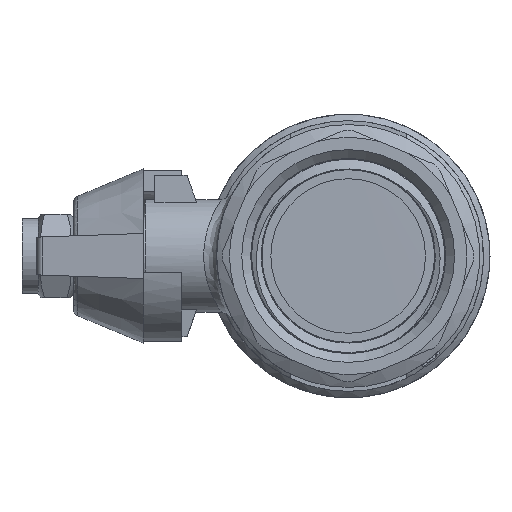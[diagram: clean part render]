
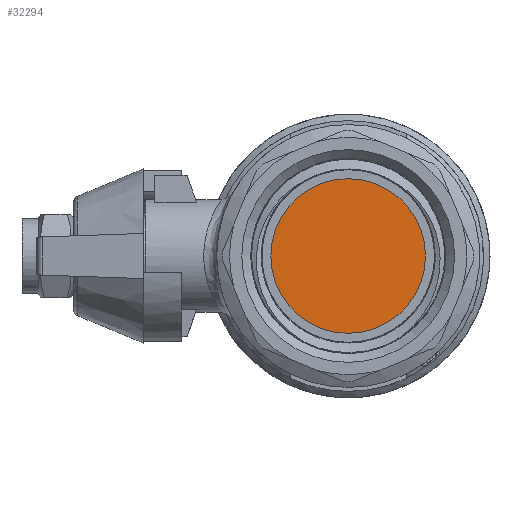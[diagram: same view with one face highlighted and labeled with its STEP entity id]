
A CAD part, left-side view. The second image highlights one B-rep face of the part: STEP entity #32294.
In plain terms, the highlighted cylindrical face has radius 19.5 mm (diameter 39 mm), a full revolution.
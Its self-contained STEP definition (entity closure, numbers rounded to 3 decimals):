
#3546=B_SPLINE_CURVE_WITH_KNOTS('',3,(#98062,#98063,#98064,#98065,#98066,
#98067,#98068,#98069,#98070,#98071,#98072,#98073,#98074,#98075,#98076,#98077,
#98078),.UNSPECIFIED.,.F.,.F.,(4,1,1,1,1,1,1,1,1,1,1,1,1,1,4),(12.566,
12.752,13.241,13.731,14.22,14.709,
15.198,15.687,16.176,16.665,17.154,
17.643,18.132,18.621,18.85),
 .UNSPECIFIED.);
#3866=CYLINDRICAL_SURFACE('',#34278,19.5);
#6483=FACE_OUTER_BOUND('',#8338,.T.);
#8338=EDGE_LOOP('',(#30386,#30387,#30388));
#9944=LINE('',#97824,#11539);
#9948=LINE('',#98061,#11543);
#11539=VECTOR('',#39492,19.5);
#11543=VECTOR('',#39506,19.5);
#15465=VERTEX_POINT('',#97822);
#15466=VERTEX_POINT('',#97823);
#15474=VERTEX_POINT('',#98060);
#20442=EDGE_CURVE('',#15465,#15466,#9944,.T.);
#20454=EDGE_CURVE('',#15474,#15466,#9948,.T.);
#20455=EDGE_CURVE('',#15474,#15465,#3546,.T.);
#30386=ORIENTED_EDGE('',*,*,#20442,.T.);
#30387=ORIENTED_EDGE('',*,*,#20454,.F.);
#30388=ORIENTED_EDGE('',*,*,#20455,.T.);
#32294=ADVANCED_FACE('',(#6483),#3866,.T.);
#34278=AXIS2_PLACEMENT_3D('',#98059,#39504,#39505);
#39492=DIRECTION('',(1.,0.,0.));
#39504=DIRECTION('center_axis',(1.,0.,0.));
#39505=DIRECTION('ref_axis',(0.,0.,1.));
#39506=DIRECTION('',(-1.,0.,0.));
#97822=CARTESIAN_POINT('',(-3.497,0.,-19.5));
#97823=CARTESIAN_POINT('',(-2.509,0.,-19.5));
#97824=CARTESIAN_POINT('',(-3.5,0.,-19.5));
#98059=CARTESIAN_POINT('Origin',(-3.5,0.,0.));
#98060=CARTESIAN_POINT('',(-2.496,0.,-19.5));
#98061=CARTESIAN_POINT('',(-3.5,0.,-19.5));
#98062=CARTESIAN_POINT('Ctrl Pts',(-2.496,0.,
-19.499));
#98063=CARTESIAN_POINT('Ctrl Pts',(-2.506,-1.209,-19.5));
#98064=CARTESIAN_POINT('Ctrl Pts',(-2.542,-5.598,
-19.097));
#98065=CARTESIAN_POINT('Ctrl Pts',(-2.604,-12.684,
-15.843));
#98066=CARTESIAN_POINT('Ctrl Pts',(-2.682,-18.64,
-8.027));
#98067=CARTESIAN_POINT('Ctrl Pts',(-2.76,-20.226,
1.672));
#98068=CARTESIAN_POINT('Ctrl Pts',(-2.838,-17.069,10.979));
#98069=CARTESIAN_POINT('Ctrl Pts',(-2.915,-9.91,
17.711));
#98070=CARTESIAN_POINT('Ctrl Pts',(-2.993,-0.427,
20.29));
#98071=CARTESIAN_POINT('Ctrl Pts',(-3.071,9.156,18.112));
#98072=CARTESIAN_POINT('Ctrl Pts',(-3.149,16.592,11.687));
#98073=CARTESIAN_POINT('Ctrl Pts',(-3.227,20.137,2.521));
#98074=CARTESIAN_POINT('Ctrl Pts',(-3.305,18.961,-7.235));
#98075=CARTESIAN_POINT('Ctrl Pts',(-3.383,13.339,-15.295));
#98076=CARTESIAN_POINT('Ctrl Pts',(-3.447,6.145,-18.973));
#98077=CARTESIAN_POINT('Ctrl Pts',(-3.485,1.483,-19.499));
#98078=CARTESIAN_POINT('Ctrl Pts',(-3.497,0.,
-19.498));
